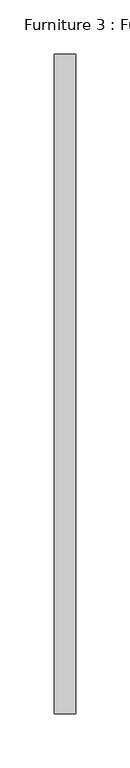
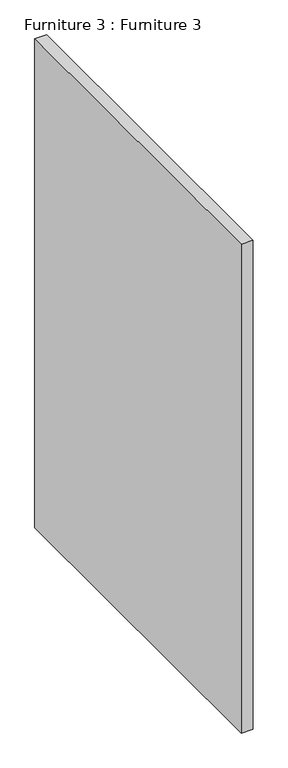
"""IFC4 building model written with IfcOpenShell, lengths in millimetres: furniture geometry, Furniture 3 : Furniture 3."""

from ifc_helpers import new_model, si_unit, frame, origin, place, context, project, spatial, polyline, outline, extrude, source, transform, mapped, element, save


def furniture_3_furniture_3_a5dc318d(model_context):
    return source(origin(), model_context, "Body", "SweptSolid", [
        extrude(outline(polyline([(-607.4765921, 8266.6620874), (-607.4765921, 7656.6620874), (-627.4765921, 7656.6620874), (-627.4765921, 8266.6620874), (-607.4765921, 8266.6620874)])), frame((0.0, 0.0, 4145.4534308), z_axis=(0.0, 0.0, 1.0), x_axis=(1.0, 0.0, 0.0)), (0.0, 0.0, 1.0), 880.0),
    ])


if __name__ == "__main__":
    model = new_model("IFC4")
    model_context = context("Model", 3, world=origin())
    ifc_project = project(units=[si_unit("LENGTHUNIT", "METRE", prefix="MILLI")], contexts=[model_context])
    site = spatial("IfcSite", under=ifc_project)
    building = spatial("IfcBuilding", under=site)
    placement = place(None, origin())
    furniture_3_furniture_3_shape = furniture_3_furniture_3_a5dc318d(model_context)
    element("IfcFurniture", 1, ObjectType="Furniture 3 : Furniture 3", at=placement, inside=building, context=model_context, shape_type="MappedRepresentation", body=[
        mapped(furniture_3_furniture_3_shape, transform((0.0, 0.0, 0.0), x_axis=(1.0, 0.0, 0.0), y_axis=(0.0, 1.0, 0.0), z_axis=(0.0, 0.0, 1.0))),
    ])
    save(model, "model.ifc")
